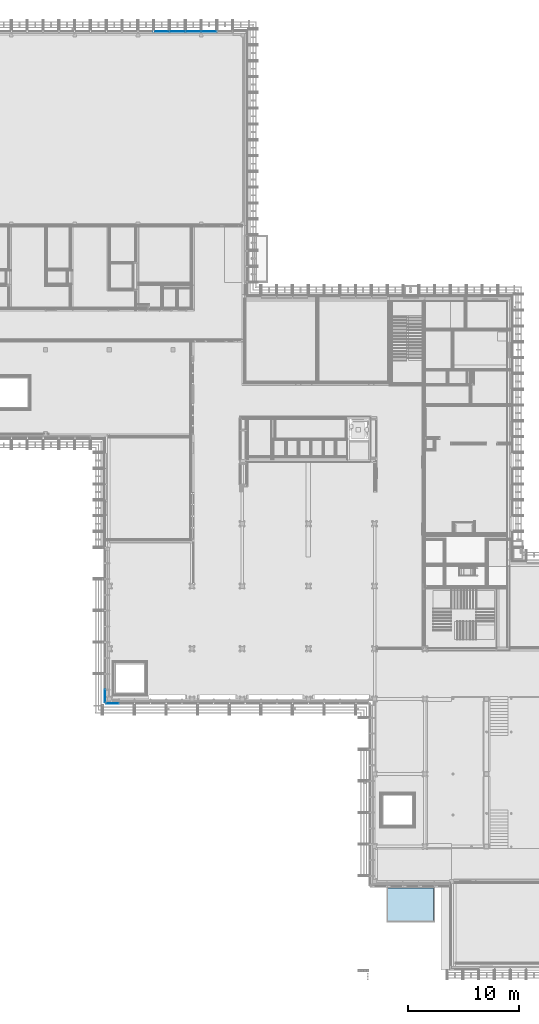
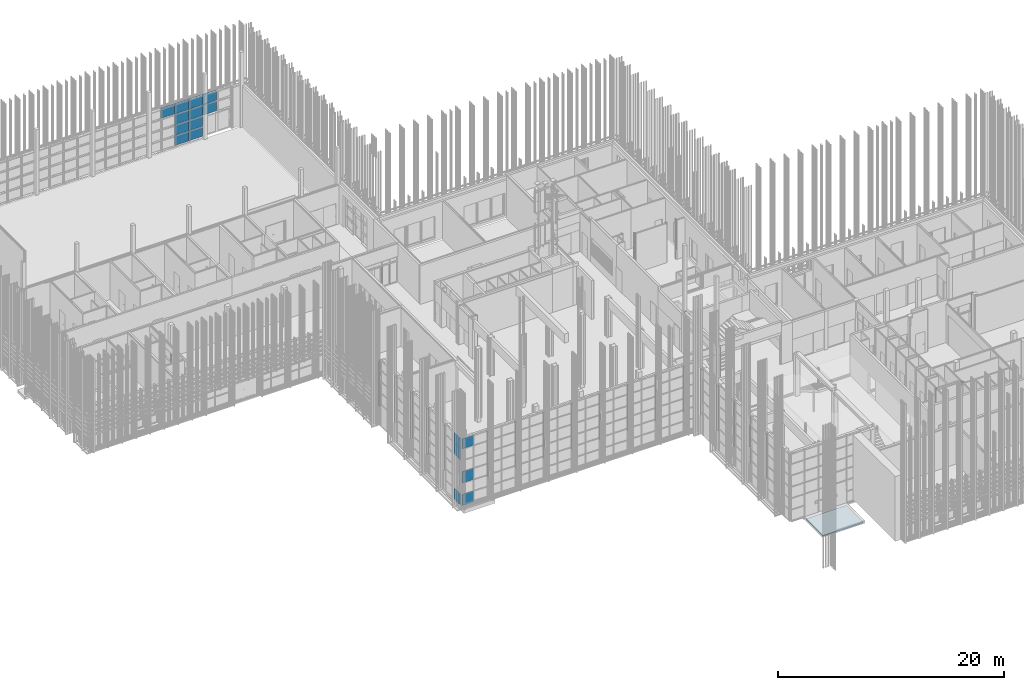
# One storey, part 57 of 260: 17 plates, 1 slab, 2 elements without a shape of their own.
"""IFC2X3 building model written with IfcOpenShell, lengths in millimetres."""

from ifc_helpers import new_model, entity, si_unit, converted_unit, derived_unit, money_unit, direction, frame, origin_with_axes, place, context, subcontext, project, spatial, faceted_brep, source, transform, mapped, material, type_object, element, aggregate, save


model = new_model("IFC2X3")

# Units and contexts
model_context = context("Model", 3, precision=0.01, world=origin_with_axes(), true_north=direction((0.0, 1.0)))
body_context = subcontext(model_context, "Body", "Model", "MODEL_VIEW")
ifc_project = project(units=[si_unit("LENGTHUNIT", "METRE", prefix="MILLI"), si_unit("AREAUNIT", "SQUARE_METRE"), si_unit("VOLUMEUNIT", "CUBIC_METRE"), converted_unit("PLANEANGLEUNIT", "DEGREE", entity("IfcPlaneAngleMeasure", 0.0174532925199), si_unit("PLANEANGLEUNIT", "RADIAN"), dimensions=[0, 0, 0, 0, 0, 0, 0]), money_unit("EUR"), converted_unit("TIMEUNIT", "Year", entity("IfcTimeMeasure", 31556926.0), si_unit("TIMEUNIT", "SECOND"), dimensions=[0, 0, 1, 0, 0, 0, 0]), si_unit("MASSUNIT", "GRAM", prefix="KILO"), si_unit("THERMODYNAMICTEMPERATUREUNIT", "DEGREE_CELSIUS"), si_unit("LUMINOUSINTENSITYUNIT", "LUMEN"), si_unit("ENERGYUNIT", "JOULE", prefix="MEGA"), derived_unit("THERMALCONDUCTANCEUNIT", [(si_unit("POWERUNIT", "WATT"), 1), (si_unit("LENGTHUNIT", "METRE"), -1), (si_unit("THERMODYNAMICTEMPERATUREUNIT", "KELVIN"), -1)]), derived_unit("SPECIFICHEATCAPACITYUNIT", [(si_unit("ENERGYUNIT", "JOULE"), 1), (si_unit("MASSUNIT", "GRAM", prefix="KILO"), -1), (si_unit("THERMODYNAMICTEMPERATUREUNIT", "KELVIN"), -1)]), derived_unit("MASSDENSITYUNIT", [(si_unit("MASSUNIT", "GRAM", prefix="KILO"), 1), (si_unit("VOLUMEUNIT", "CUBIC_METRE"), -1)])], contexts=[model_context])

# Site, building, storey
site_placement = place(None, origin_with_axes())
site = spatial("IfcSite", under=ifc_project, at=site_placement, Name="Kolde pst 67a", CompositionType="ELEMENT")
building_placement = place(site_placement, origin_with_axes())
building = spatial("IfcBuilding", under=site, at=building_placement, Name="Riigigümnaasium", CompositionType="ELEMENT")
storey_placement = place(building_placement, origin_with_axes())
storey = spatial("IfcBuildingStorey", under=building, at=storey_placement, Name="1. korrus", CompositionType="ELEMENT", Elevation=0.0)

# Curtain wall, plates
curtain_wall_type = type_object("IfcCurtainWallType", Name="Curtain Wall Type", PredefinedType="NOTDEFINED")
curtain_wall_1_placement = place(storey_placement, frame((47829.9854655, 8727.77020058, -0.000749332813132), z_axis=(0.0, 0.0, 1.0), x_axis=(1.0, 0.0, 0.0)))
curtain_wall_1 = element("IfcCurtainWall", 1, at=curtain_wall_1_placement, inside=storey, type_object=curtain_wall_type, Name="KLAASFASSAAD")
ifc_material_1 = material(Name="_KLAAS - kirgas")
plate_type_1 = type_object("IfcPlateType", Name="Main Panel 1143 x 1220 x 33", PredefinedType="NOTDEFINED")
plate_1_placement = place(curtain_wall_1_placement, frame((-23371.1996085, 15102.4966292, 3075.00074933), z_axis=(0.0, 0.0, 1.0), x_axis=(0.999999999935, -1.1410815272e-05, 0.0)))
plate_1 = element("IfcPlate", 2, at=plate_1_placement, type_object=plate_type_1, material=ifc_material_1, Name="RF PANEEL PEAMINE-082", context=body_context, shape_type="Brep", body=[
    faceted_brep([(-518.784147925, 16.5000000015, 609.999994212), (-518.784147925, -16.4999999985, 609.999994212), (623.784538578, -16.5, 609.999994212), (623.784538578, 16.5, 609.999994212), (-518.784147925, 16.5000000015, -609.999992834), (-518.784147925, -16.4999999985, -609.999992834), (623.784538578, -16.5, -609.999992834), (623.784538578, 16.5, -609.999992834)], [[[0, 1, 2, 3]], [[4, 5, 1, 0]], [[1, 5, 6, 2]], [[3, 2, 6, 7]], [[0, 3, 7, 4]], [[7, 6, 5, 4]]]),
])
plate_type_2 = type_object("IfcPlateType", Name="Main Panel 1143 x 1195 x 33", PredefinedType="NOTDEFINED")
plate_2_placement = place(curtain_wall_1_placement, frame((-23371.1996085, 15102.4966292, 615.000452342), z_axis=(0.0, 0.0, 1.0), x_axis=(0.999999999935, -1.1410815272e-05, 0.0)))
plate_2 = element("IfcPlate", 3, at=plate_2_placement, type_object=plate_type_2, material=ifc_material_1, Name="RF PANEEL PEAMINE-106", context=body_context, shape_type="Brep", body=[
    faceted_brep([(-518.784147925, 16.5000000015, 610.000297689), (-518.784147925, -16.4999999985, 610.000297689), (623.784538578, -16.5, 610.000297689), (623.784538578, 16.5, 610.000297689), (-518.784147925, 16.5000000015, -585.000403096), (-518.784147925, -16.4999999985, -585.000403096), (623.784538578, -16.5, -585.000159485), (623.784538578, 16.5, -585.000159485)], [[[0, 1, 2, 3]], [[4, 5, 1, 0]], [[1, 5, 6, 2]], [[3, 2, 6, 7]], [[0, 3, 7, 4]], [[7, 6, 5, 4]]]),
])
plate_type_3 = type_object("IfcPlateType", Name="Main Panel 1143 x 1075 x 33", PredefinedType="NOTDEFINED")
plate_3_placement = place(curtain_wall_1_placement, frame((-23371.1996085, 15102.4966292, 6705.00033834), z_axis=(0.0, 0.0, 1.0), x_axis=(0.999999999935, -1.1410815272e-05, 0.0)))
plate_3 = element("IfcPlate", 4, at=plate_3_placement, type_object=plate_type_3, material=ifc_material_1, Name="RF PANEEL PEAMINE-086", context=body_context, shape_type="Brep", body=[
    faceted_brep([(-518.784147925, 16.5000000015, 524.999597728), (-518.784147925, -16.4999999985, 524.999597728), (623.784538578, -16.5, 524.999597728), (623.784538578, 16.5, 524.999597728), (-518.784147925, 16.5000000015, -549.999581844), (-518.784147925, -16.4999999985, -549.999581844), (623.784538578, -16.5, -549.999581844), (623.784538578, 16.5, -549.999581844)], [[[0, 1, 2, 3]], [[4, 5, 1, 0]], [[1, 5, 6, 2]], [[3, 2, 6, 7]], [[0, 3, 7, 4]], [[7, 6, 5, 4]]]),
])
plate_type_4 = type_object("IfcPlateType", Name="Main Panel 625 x 1075 x 33", PredefinedType="NOTDEFINED")
plate_4_placement = place(curtain_wall_1_placement, frame((-23999.9784689, 15845.9112386, 6782.85727113), z_axis=(0.0, 0.0, 1.0), x_axis=(-7.6476848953e-06, -0.999999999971, 0.0)))
plate_4 = element("IfcPlate", 5, at=plate_4_placement, type_object=plate_type_4, material=ifc_material_1, Name="RF PANEEL PEAMINE-183", context=body_context, shape_type="Brep", body=[
    faceted_brep([(-496.362744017, 16.5, 447.142367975), (-496.362744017, -16.5, 447.142367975), (8.63724976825, -16.5, 447.142367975), (8.63724976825, 16.5, 447.142367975), (-496.362744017, 16.5, -627.856522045), (-496.362744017, -16.5, -627.856522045), (8.63724976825, -16.5, -627.856522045), (633.407439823, -16.5, -627.856522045), (633.407439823, -16.5, 447.142367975), (633.407439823, 16.5, 447.142367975), (633.407439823, 16.5, -627.856522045), (8.63724976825, 16.5, -627.856522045)], [[[0, 1, 2, 3]], [[4, 5, 1, 0]], [[1, 5, 6, 7, 8, 2]], [[3, 2, 8, 9]], [[0, 3, 9, 10, 11, 4]], [[11, 6, 5, 4]], [[10, 7, 6, 11]], [[9, 8, 7, 10]]]),
])
plate_type_5 = type_object("IfcPlateType", Name="Main Panel 625 x 1220 x 33", PredefinedType="NOTDEFINED")
plate_5_placement = place(curtain_wall_1_placement, frame((-23999.9791079, 15762.3507449, 5535.00074933), z_axis=(0.0, 0.0, 1.0), x_axis=(-7.6476848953e-06, -0.999999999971, 0.0)))
plate_5 = element("IfcPlate", 6, at=plate_5_placement, type_object=plate_type_5, material=ifc_material_1, Name="RF PANEEL PEAMINE-182", context=body_context, shape_type="Brep", body=[
    faceted_brep([(-579.923229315, 16.5, 610.000005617), (-579.923229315, -16.5, 610.000005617), (-74.9232499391, -16.5, 610.000005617), (-74.9232499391, 16.5, 610.000005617), (-579.923247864, 16.5, -610.000000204), (-579.923247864, -16.5, -610.000000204), (-74.9232499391, -16.5, -610.000000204), (549.846945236, -16.5, -610.000000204), (549.846945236, -16.5, 610.000005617), (549.846945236, 16.5, 610.000005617), (549.846945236, 16.5, -610.000000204), (-74.9232499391, 16.5, -610.000000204)], [[[0, 1, 2, 3]], [[4, 5, 1, 0]], [[1, 5, 6, 7, 8, 2]], [[3, 2, 8, 9]], [[0, 3, 9, 10, 11, 4]], [[11, 6, 5, 4]], [[10, 7, 6, 11]], [[9, 8, 7, 10]]]),
])
plate_type_6 = type_object("IfcPlateType", Name="Main Panel 625 x 1195 x 33", PredefinedType="NOTDEFINED")
plate_6_placement = place(curtain_wall_1_placement, frame((-23999.9791079, 15762.3507449, 615.000387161), z_axis=(0.0, 0.0, 1.0), x_axis=(-7.6476848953e-06, -0.999999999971, 0.0)))
plate_6 = element("IfcPlate", 7, at=plate_6_placement, type_object=plate_type_6, material=ifc_material_1, Name="RF PANEEL PEAMINE-178", context=body_context, shape_type="Brep", body=[
    faceted_brep([(-579.923247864, 16.5, 610.000366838), (-579.923247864, -16.5, 610.000366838), (-74.9232499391, -16.5, 610.000366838), (-74.9232499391, 16.5, 610.000366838), (-579.923229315, 16.5, -585.000363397), (-579.923229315, -16.5, -585.000363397), (-74.9232499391, -16.5, -585.000363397), (549.846945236, -16.5, -585.000363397), (549.846945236, -16.5, 610.000366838), (549.846945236, 16.5, 610.000366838), (549.846945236, 16.5, -585.000363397), (-74.9232499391, 16.5, -585.000363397)], [[[0, 1, 2, 3]], [[4, 5, 1, 0]], [[1, 5, 6, 7, 8, 2]], [[3, 2, 8, 9]], [[0, 3, 9, 10, 11, 4]], [[11, 6, 5, 4]], [[10, 7, 6, 11]], [[9, 8, 7, 10]]]),
])
aggregate(curtain_wall_1, [plate_1, plate_2, plate_3, plate_4, plate_5, plate_6])

curtain_wall_2_placement = place(storey_placement, frame((10366.0828546, 84639.9999608, 0.0), z_axis=(0.0, 0.0, 1.0), x_axis=(1.0, 0.0, 0.0)))
curtain_wall_2 = element("IfcCurtainWall", 8, at=curtain_wall_2_placement, inside=storey, type_object=curtain_wall_type, Name="KLAASFASSAAD")
plate_type_7 = type_object("IfcPlateType", Name="Turvaklaas 1420 x 1115 x 48", PredefinedType="CURTAIN_PANEL")
shared_shape_1 = source(origin_with_axes(), body_context, "Body", "Brep", [
    faceted_brep([(-1425.00000328, 1144.99999508, -24.0), (-1425.00000328, 1144.99999508, 24.0), (-4.99999672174, 1144.99999508, 24.0), (-4.99999672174, 1144.99999508, -24.0), (-1425.00000328, 30.0000016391, -24.0), (-1425.00000328, 30.0000016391, 24.0), (-4.99999672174, 30.0000016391, 24.0), (-4.99999672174, 30.0000016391, -24.0)], [[[0, 1, 2, 3]], [[4, 5, 1, 0]], [[1, 5, 6, 2]], [[3, 2, 6, 7]], [[0, 3, 7, 4]], [[7, 6, 5, 4]]]),
])
plate_7_placement = place(curtain_wall_2_placement, frame((20020.0, 0.0, 575.0), z_axis=(0.0, 0.0, 1.0), x_axis=(-1.0, 0.0, 0.0)))
plate_7 = element("IfcPlate", 9, at=plate_7_placement, type_object=plate_type_7, material=ifc_material_1, Name="Panel-Turvaklaas-027", ObjectType="CURTAIN_PANEL", context=body_context, shape_type="MappedRepresentation", body=[
    mapped(shared_shape_1, transform((715.0, 0.0, -575.0), x_axis=(1.0, 0.0, 0.0), y_axis=(0.0, 0.0, 1.0), z_axis=(0.0, -1.0, 0.0))),
])
plate_8_placement = place(curtain_wall_2_placement, frame((21450.0, 0.0, 575.0), z_axis=(0.0, 0.0, 1.0), x_axis=(-1.0, 0.0, 0.0)))
plate_8 = element("IfcPlate", 10, at=plate_8_placement, type_object=plate_type_7, material=ifc_material_1, Name="Panel-Turvaklaas-027", ObjectType="CURTAIN_PANEL", context=body_context, shape_type="MappedRepresentation", body=[
    mapped(shared_shape_1, transform((715.0, 0.0, -575.0), x_axis=(1.0, 0.0, 0.0), y_axis=(0.0, 0.0, 1.0), z_axis=(0.0, -1.0, 0.0))),
])
plate_type_8 = type_object("IfcPlateType", Name="Turvaklaas 1420 x 1140 x 48", PredefinedType="CURTAIN_PANEL")
shared_shape_2 = source(origin_with_axes(), body_context, "Body", "Brep", [
    faceted_brep([(-1425.00000328, 1144.99999508, -24.0), (-1425.00000328, 1144.99999508, 24.0), (-4.99999672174, 1144.99999508, 24.0), (-4.99999672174, 1144.99999508, -24.0), (-1425.00000328, 4.99999672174, -24.0), (-1425.00000328, 4.99999672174, 24.0), (-4.99999672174, 4.99999672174, 24.0), (-4.99999672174, 4.99999672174, -24.0)], [[[0, 1, 2, 3]], [[4, 5, 1, 0]], [[1, 5, 6, 2]], [[3, 2, 6, 7]], [[0, 3, 7, 4]], [[7, 6, 5, 4]]]),
])
plate_9_placement = place(curtain_wall_2_placement, frame((20020.0, 0.0, 1725.0), z_axis=(0.0, 0.0, 1.0), x_axis=(-1.0, 0.0, 0.0)))
plate_9 = element("IfcPlate", 11, at=plate_9_placement, type_object=plate_type_8, material=ifc_material_1, Name="Panel-Turvaklaas-043", ObjectType="CURTAIN_PANEL", context=body_context, shape_type="MappedRepresentation", body=[
    mapped(shared_shape_2, transform((715.0, 0.0, -575.0), x_axis=(1.0, 0.0, 0.0), y_axis=(0.0, 0.0, 1.0), z_axis=(0.0, -1.0, 0.0))),
])
plate_10_placement = place(curtain_wall_2_placement, frame((21450.0, 0.0, 1725.0), z_axis=(0.0, 0.0, 1.0), x_axis=(-1.0, 0.0, 0.0)))
plate_10 = element("IfcPlate", 12, at=plate_10_placement, type_object=plate_type_8, material=ifc_material_1, Name="Panel-Turvaklaas-044", ObjectType="CURTAIN_PANEL", context=body_context, shape_type="MappedRepresentation", body=[
    mapped(shared_shape_2, transform((715.0, 0.0, -575.0), x_axis=(1.0, 0.0, 0.0), y_axis=(0.0, 0.0, 1.0), z_axis=(0.0, -1.0, 0.0))),
])
plate_11_placement = place(curtain_wall_2_placement, frame((20020.0, 0.0, 2875.0), z_axis=(0.0, 0.0, 1.0), x_axis=(-1.0, 0.0, 0.0)))
plate_11 = element("IfcPlate", 13, at=plate_11_placement, type_object=plate_type_8, material=ifc_material_1, Name="Panel-Turvaklaas-063", ObjectType="CURTAIN_PANEL", context=body_context, shape_type="MappedRepresentation", body=[
    mapped(shared_shape_2, transform((715.0, 0.0, -575.0), x_axis=(1.0, 0.0, 0.0), y_axis=(0.0, 0.0, 1.0), z_axis=(0.0, -1.0, 0.0))),
])
plate_12_placement = place(curtain_wall_2_placement, frame((21450.0, 0.0, 2875.0), z_axis=(0.0, 0.0, 1.0), x_axis=(-1.0, 0.0, 0.0)))
plate_12 = element("IfcPlate", 14, at=plate_12_placement, type_object=plate_type_8, material=ifc_material_1, Name="Panel-Turvaklaas-064", ObjectType="CURTAIN_PANEL", context=body_context, shape_type="MappedRepresentation", body=[
    mapped(shared_shape_2, transform((715.0, 0.0, -575.0), x_axis=(1.0, 0.0, 0.0), y_axis=(0.0, 0.0, 1.0), z_axis=(0.0, -1.0, 0.0))),
])
plate_13_placement = place(curtain_wall_2_placement, frame((22880.0, 0.0, 2875.0), z_axis=(0.0, 0.0, 1.0), x_axis=(-1.0, 0.0, 0.0)))
plate_13 = element("IfcPlate", 15, at=plate_13_placement, type_object=plate_type_8, material=ifc_material_1, Name="Panel-Turvaklaas-065", ObjectType="CURTAIN_PANEL", context=body_context, shape_type="MappedRepresentation", body=[
    mapped(shared_shape_2, transform((715.0, 0.0, -575.0), x_axis=(1.0, 0.0, 0.0), y_axis=(0.0, 0.0, 1.0), z_axis=(0.0, -1.0, 0.0))),
])
shared_shape_3 = source(origin_with_axes(), body_context, "Body", "Brep", [
    faceted_brep([(-1425.00000328, 1119.99999017, -24.0), (-1425.00000328, 1119.99999017, 24.0), (-4.99999672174, 1119.99999017, 24.0), (-4.99999672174, 1119.99999017, -24.0), (-1425.00000328, 4.99999672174, -24.0), (-1425.00000328, 4.99999672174, 24.0), (-4.99999672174, 4.99999672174, 24.0), (-4.99999672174, 4.99999672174, -24.0)], [[[0, 1, 2, 3]], [[4, 5, 1, 0]], [[1, 5, 6, 2]], [[3, 2, 6, 7]], [[0, 3, 7, 4]], [[7, 6, 5, 4]]]),
])
plate_14_placement = place(curtain_wall_2_placement, frame((18590.0, 0.0, 4025.0), z_axis=(0.0, 0.0, 1.0), x_axis=(-1.0, 0.0, 0.0)))
plate_14 = element("IfcPlate", 16, at=plate_14_placement, type_object=plate_type_7, material=ifc_material_1, Name="Panel-Turvaklaas-084", ObjectType="CURTAIN_PANEL", context=body_context, shape_type="MappedRepresentation", body=[
    mapped(shared_shape_3, transform((715.0, 0.0, -575.0), x_axis=(1.0, 0.0, 0.0), y_axis=(0.0, 0.0, 1.0), z_axis=(0.0, -1.0, 0.0))),
])
plate_15_placement = place(curtain_wall_2_placement, frame((20020.0, 0.0, 4025.0), z_axis=(0.0, 0.0, 1.0), x_axis=(-1.0, 0.0, 0.0)))
plate_15 = element("IfcPlate", 17, at=plate_15_placement, type_object=plate_type_7, material=ifc_material_1, Name="Panel-Turvaklaas-085", ObjectType="CURTAIN_PANEL", context=body_context, shape_type="MappedRepresentation", body=[
    mapped(shared_shape_3, transform((715.0, 0.0, -575.0), x_axis=(1.0, 0.0, 0.0), y_axis=(0.0, 0.0, 1.0), z_axis=(0.0, -1.0, 0.0))),
])
plate_16_placement = place(curtain_wall_2_placement, frame((21450.0, 0.0, 4025.0), z_axis=(0.0, 0.0, 1.0), x_axis=(-1.0, 0.0, 0.0)))
plate_16 = element("IfcPlate", 18, at=plate_16_placement, type_object=plate_type_7, material=ifc_material_1, Name="Panel-Turvaklaas-086", ObjectType="CURTAIN_PANEL", context=body_context, shape_type="MappedRepresentation", body=[
    mapped(shared_shape_3, transform((715.0, 0.0, -575.0), x_axis=(1.0, 0.0, 0.0), y_axis=(0.0, 0.0, 1.0), z_axis=(0.0, -1.0, 0.0))),
])
plate_17_placement = place(curtain_wall_2_placement, frame((22880.0, 0.0, 4025.0), z_axis=(0.0, 0.0, 1.0), x_axis=(-1.0, 0.0, 0.0)))
plate_17 = element("IfcPlate", 19, at=plate_17_placement, type_object=plate_type_7, material=ifc_material_1, Name="Panel-Turvaklaas-087", ObjectType="CURTAIN_PANEL", context=body_context, shape_type="MappedRepresentation", body=[
    mapped(shared_shape_3, transform((715.0, 0.0, -575.0), x_axis=(1.0, 0.0, 0.0), y_axis=(0.0, 0.0, 1.0), z_axis=(0.0, -1.0, 0.0))),
])
aggregate(curtain_wall_2, [plate_7, plate_8, plate_9, plate_10, plate_11, plate_12, plate_13, plate_14, plate_15, plate_16, plate_17])

# Slab
ifc_material_2 = material(Name="_KANDETARIND - monoliitne raudbetoon vastavalt EK osale")
slab_type = type_object("IfcSlabType", Name="_KANDETARIND - monoliitne raudbetoon vastavalt EK osale 100", PredefinedType="NOTDEFINED")
slab_placement = place(storey_placement, frame((52273.9235787, 7150.02041501, -202.0), z_axis=(0.0, 0.0, 1.0), x_axis=(1.0, 0.0, 0.0)))
element("IfcSlab", 20, at=slab_placement, inside=storey, type_object=slab_type, material=ifc_material_2, Name="Porivann, monoliitne raudbetoon vastavalt EK osale", PredefinedType="NOTDEFINED", context=body_context, shape_type="Brep", body=[
    faceted_brep([(-2859.88570287, -0.0153615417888, 0.0), (-2859.88570287, -0.0153615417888, -100.0), (-2859.86954934, -2999.9773653, -100.0), (-2859.86954934, -2999.9773653, 0.0), (1287.62814446, 0.00688111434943, 0.0), (1287.62814446, 0.00688111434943, -100.0), (1287.64429799, -2999.9550544, -100.0), (1287.64429799, -2999.9550544, 0.0)], [[[0, 1, 2, 3]], [[4, 5, 1, 0]], [[1, 5, 6, 2]], [[3, 2, 6, 7]], [[4, 0, 3, 7]], [[7, 6, 5, 4]]]),
])

save(model, "model.ifc")
